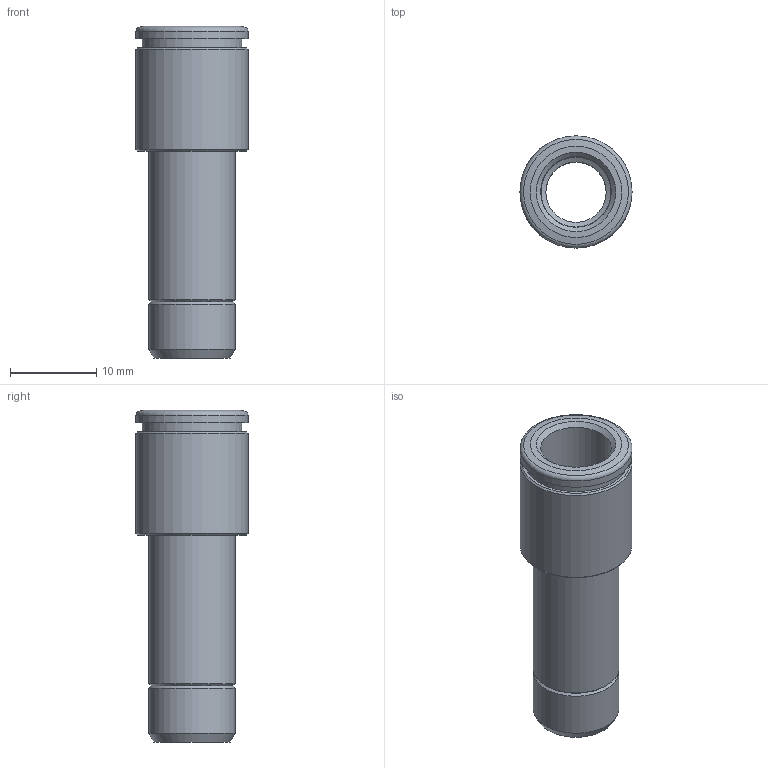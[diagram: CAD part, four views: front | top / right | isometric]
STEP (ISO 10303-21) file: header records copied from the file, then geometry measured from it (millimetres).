
FILE_DESCRIPTION(('Bauteilbeschreibung','HiCAD-Model','HiCAD-STEP-TRANSLATION','Bauteilbeschreibung'),'2;1');
FILE_NAME('B:/ABGLEICH/ZEICHNUNGEN/STEP FÜR INTERNET/STEP/IPSO 08/200808_IPSO_08_10_8.STP','2011-09-23T11:12:39+00:00',('Konstrukteur'),('Konstrukteur Firma GmbH'),' HiCAD neXt 2008, Step 3.1.1401.2J ','HiCAD neXt 2008','confidential');
FILE_SCHEMA(('AUTOMOTIVE_DESIGN { 1 2 10303 214 0 1 1 1 }'));
Length unit declared in the file: millimetre
Products named in the file (3): A00808_IPSO_08_10_8; R200808_N1; DR8_1_NEU
Assembly tree (2 placements, depth 2):
  A00808_IPSO_08_10_8
    R200808_N1
    DR8_1_NEU
Bounding box: 13 x 13 x 38.5 mm (x, y, z)
Volume: 1780 mm3; surface area: 3039.8 mm2
Topology: 2 solids, 2 shells, 32 faces, 60 edges, 35 vertices
Faces by surface type: cone 13, cylinder 11, plane 7, torus 1
Full cylindrical faces by diameter (mm): 7 x1, 8.1 x1, 8.2 x1, 10 x2, 10.1 x1, 11 x1, 11.5 x1, 11.6 x1, 13 x2
Entity records: 888 total; most frequent: DIRECTION 136, CARTESIAN_POINT 100, AXIS2_PLACEMENT_3D 68, EDGE_LOOP 64, ORIENTED_EDGE 64, COLOUR_RGB 34, PRESENTATION_STYLE_ASSIGNMENT 34, ADVANCED_FACE 32
